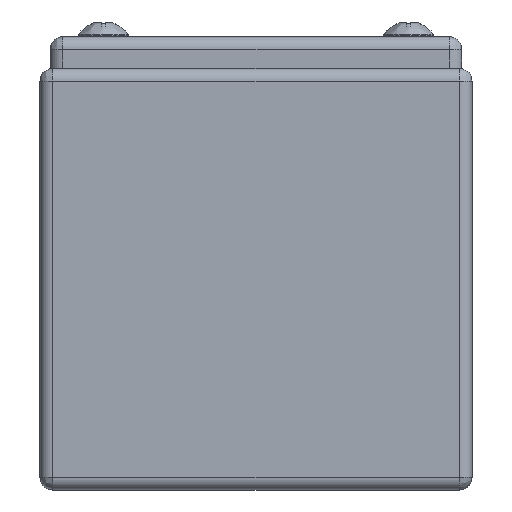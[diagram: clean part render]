
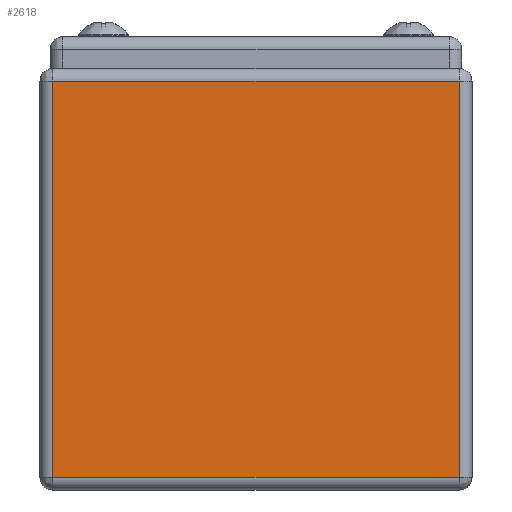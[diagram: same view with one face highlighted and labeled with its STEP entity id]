
A CAD part, front view. The second image highlights one B-rep face of the part: STEP entity #2618.
In plain terms, the highlighted planar face has unit normal (0, -1, 0).
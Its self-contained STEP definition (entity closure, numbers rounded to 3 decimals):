
#216 = CARTESIAN_POINT ( 'NONE',  ( 0., 0., 77.6 ) ) ;
#789 = CARTESIAN_POINT ( 'NONE',  ( 0., 0., 2.4 ) ) ;
#1181 = LINE ( 'NONE', #216, #6105 ) ;
#2080 = EDGE_CURVE ( 'NONE', #13162, #14852, #14301, .T. ) ;
#2618 = ADVANCED_FACE ( 'NONE', ( #12100 ), #4897, .F. ) ;
#2754 = ORIENTED_EDGE ( 'NONE', *, *, #20102, .F. ) ;
#2887 = EDGE_LOOP ( 'NONE', ( #19490, #2754, #7620, #7352 ) ) ;
#3941 = CARTESIAN_POINT ( 'NONE',  ( 79.6, 0., 77.6 ) ) ;
#4084 = AXIS2_PLACEMENT_3D ( 'NONE', #18068, #21289, #6179 ) ;
#4227 = DIRECTION ( 'NONE',  ( -1., 0., 0. ) ) ;
#4897 = PLANE ( 'NONE',  #4084 ) ;
#6105 = VECTOR ( 'NONE', #12032, 1000. ) ;
#6179 = DIRECTION ( 'NONE',  ( 0., 0., 1. ) ) ;
#6535 = EDGE_CURVE ( 'NONE', #9209, #18554, #11582, .T. ) ;
#7352 = ORIENTED_EDGE ( 'NONE', *, *, #9292, .F. ) ;
#7620 = ORIENTED_EDGE ( 'NONE', *, *, #2080, .F. ) ;
#8603 = CARTESIAN_POINT ( 'NONE',  ( 79.6, 0., 2.4 ) ) ;
#9209 = VERTEX_POINT ( 'NONE', #3941 ) ;
#9292 = EDGE_CURVE ( 'NONE', #18554, #13162, #10842, .T. ) ;
#9878 = VECTOR ( 'NONE', #14567, 1000. ) ;
#10078 = VECTOR ( 'NONE', #4227, 1000. ) ;
#10842 = LINE ( 'NONE', #789, #10078 ) ;
#11582 = LINE ( 'NONE', #15573, #12883 ) ;
#12032 = DIRECTION ( 'NONE',  ( 1., 0., 0. ) ) ;
#12100 = FACE_OUTER_BOUND ( 'NONE', #2887, .T. ) ;
#12761 = CARTESIAN_POINT ( 'NONE',  ( 2.4, 0., 77.6 ) ) ;
#12883 = VECTOR ( 'NONE', #18898, 1000. ) ;
#12924 = CARTESIAN_POINT ( 'NONE',  ( 2.4, 0., 78.8 ) ) ;
#13162 = VERTEX_POINT ( 'NONE', #15681 ) ;
#14301 = LINE ( 'NONE', #12924, #9878 ) ;
#14567 = DIRECTION ( 'NONE',  ( 0., 0., 1. ) ) ;
#14852 = VERTEX_POINT ( 'NONE', #12761 ) ;
#15573 = CARTESIAN_POINT ( 'NONE',  ( 79.6, 0., 78.8 ) ) ;
#15681 = CARTESIAN_POINT ( 'NONE',  ( 2.4, 0., 2.4 ) ) ;
#18068 = CARTESIAN_POINT ( 'NONE',  ( 0., 0., 78.8 ) ) ;
#18554 = VERTEX_POINT ( 'NONE', #8603 ) ;
#18898 = DIRECTION ( 'NONE',  ( 0., 0., -1. ) ) ;
#19490 = ORIENTED_EDGE ( 'NONE', *, *, #6535, .F. ) ;
#20102 = EDGE_CURVE ( 'NONE', #14852, #9209, #1181, .T. ) ;
#21289 = DIRECTION ( 'NONE',  ( 0., 1., 0. ) ) ;
